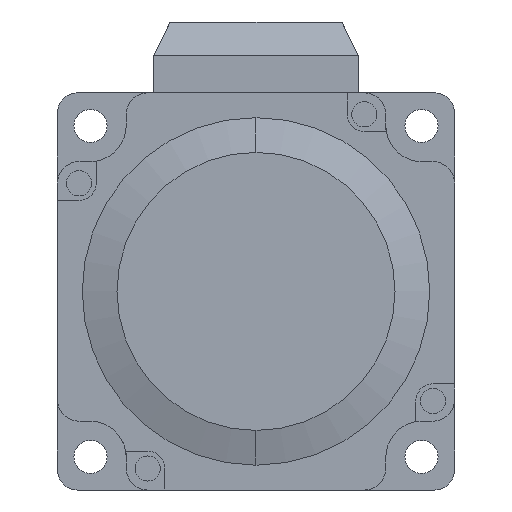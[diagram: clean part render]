
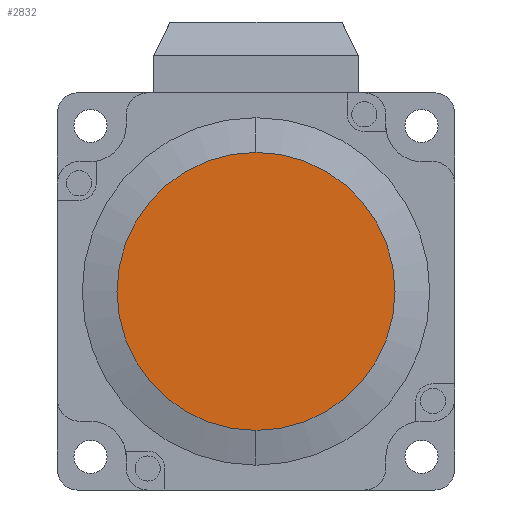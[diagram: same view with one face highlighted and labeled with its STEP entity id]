
A CAD part, front view. The second image highlights one B-rep face of the part: STEP entity #2832.
In plain terms, the highlighted planar face has unit normal (0, -1, 0).
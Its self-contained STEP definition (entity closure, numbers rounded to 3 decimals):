
#3 = AXIS2_PLACEMENT_3D ( 'NONE', #5857, #321, #6793 ) ;
#267 = CARTESIAN_POINT ( 'NONE',  ( 30., -1.5, -9. ) ) ;
#321 = DIRECTION ( 'NONE',  ( 0., 1., 0. ) ) ;
#811 = DIRECTION ( 'NONE',  ( 0., 0., 1. ) ) ;
#994 = PLANE ( 'NONE',  #6718 ) ;
#1915 = DIRECTION ( 'NONE',  ( 0., 0., 1. ) ) ;
#2237 = VERTEX_POINT ( 'NONE', #10371 ) ;
#2409 = EDGE_LOOP ( 'NONE', ( #7465, #3610 ) ) ;
#2554 = VERTEX_POINT ( 'NONE', #267 ) ;
#2832 = ADVANCED_FACE ( 'NONE', ( #11264 ), #994, .F. ) ;
#3610 = ORIENTED_EDGE ( 'NONE', *, *, #3802, .F. ) ;
#3802 = EDGE_CURVE ( 'NONE', #2237, #2554, #7754, .T. ) ;
#5822 = EDGE_CURVE ( 'NONE', #2554, #2237, #7896, .T. ) ;
#5857 = CARTESIAN_POINT ( 'NONE',  ( 30., -1.5, -30. ) ) ;
#6349 = DIRECTION ( 'NONE',  ( 0., 1., 0. ) ) ;
#6718 = AXIS2_PLACEMENT_3D ( 'NONE', #10192, #7446, #1915 ) ;
#6793 = DIRECTION ( 'NONE',  ( 0., 0., 1. ) ) ;
#7446 = DIRECTION ( 'NONE',  ( 0., 1., 0. ) ) ;
#7465 = ORIENTED_EDGE ( 'NONE', *, *, #5822, .F. ) ;
#7754 = CIRCLE ( 'NONE', #3, 21. ) ;
#7896 = CIRCLE ( 'NONE', #10682, 21. ) ;
#10192 = CARTESIAN_POINT ( 'NONE',  ( 30., -1.5, -30. ) ) ;
#10371 = CARTESIAN_POINT ( 'NONE',  ( 30., -1.5, -51. ) ) ;
#10682 = AXIS2_PLACEMENT_3D ( 'NONE', #11854, #6349, #811 ) ;
#11264 = FACE_OUTER_BOUND ( 'NONE', #2409, .T. ) ;
#11854 = CARTESIAN_POINT ( 'NONE',  ( 30., -1.5, -30. ) ) ;
